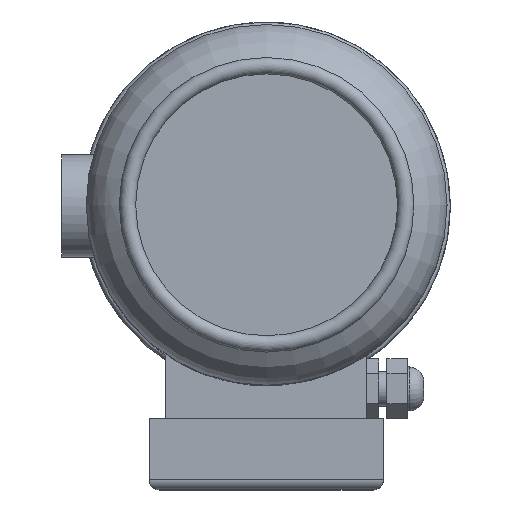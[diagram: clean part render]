
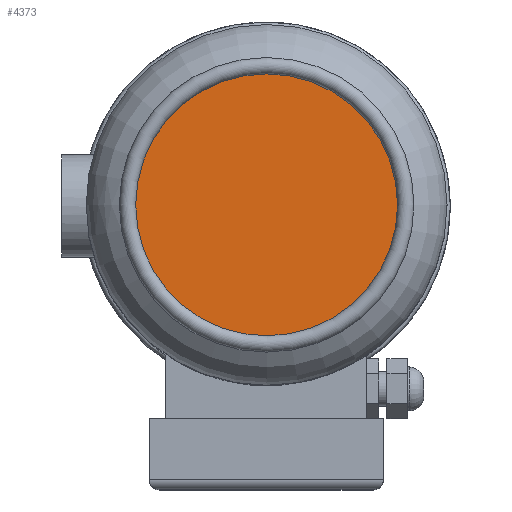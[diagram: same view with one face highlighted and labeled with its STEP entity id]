
A CAD part, top view. The second image highlights one B-rep face of the part: STEP entity #4373.
In plain terms, the highlighted planar face has unit normal (0, 0, 1).
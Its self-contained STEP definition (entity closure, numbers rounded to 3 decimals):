
#2004=ORIENTED_EDGE('',*,*,#2574,.F.);
#2574=EDGE_CURVE('',#2989,#2989,#3143,.T.);
#2989=VERTEX_POINT('',#10169);
#3143=CIRCLE('',#4757,64.016);
#3562=EDGE_LOOP('',(#2004));
#3984=FACE_BOUND('',#3562,.T.);
#4095=PLANE('',#4756);
#4373=ADVANCED_FACE('',(#3984),#4095,.T.);
#4756=AXIS2_PLACEMENT_3D('',#10167,#5766,#5767);
#4757=AXIS2_PLACEMENT_3D('',#10168,#5768,#5769);
#5766=DIRECTION('',(0.,0.,1.));
#5767=DIRECTION('',(1.,0.,0.));
#5768=DIRECTION('',(0.,0.,-1.));
#5769=DIRECTION('',(-1.,0.,0.));
#10167=CARTESIAN_POINT('',(-63.82,0.,900.26));
#10168=CARTESIAN_POINT('',(0.196,0.,900.26));
#10169=CARTESIAN_POINT('',(-63.82,0.,900.26));
